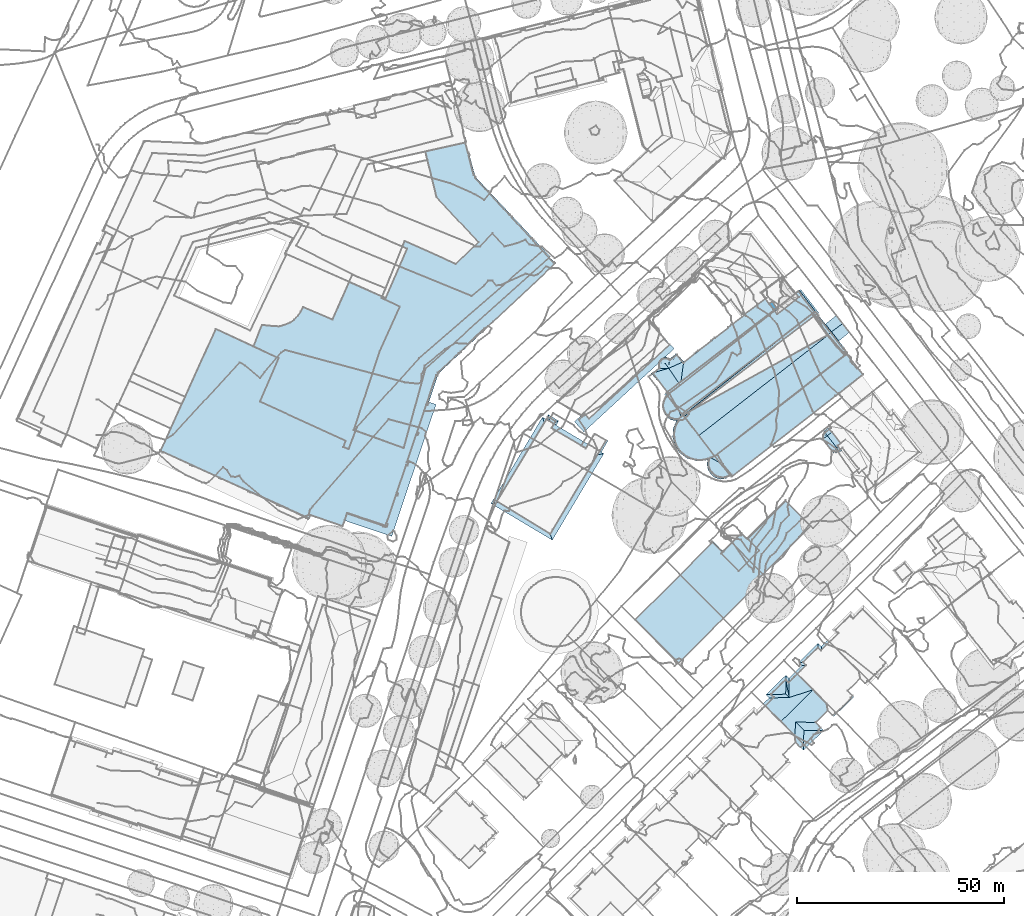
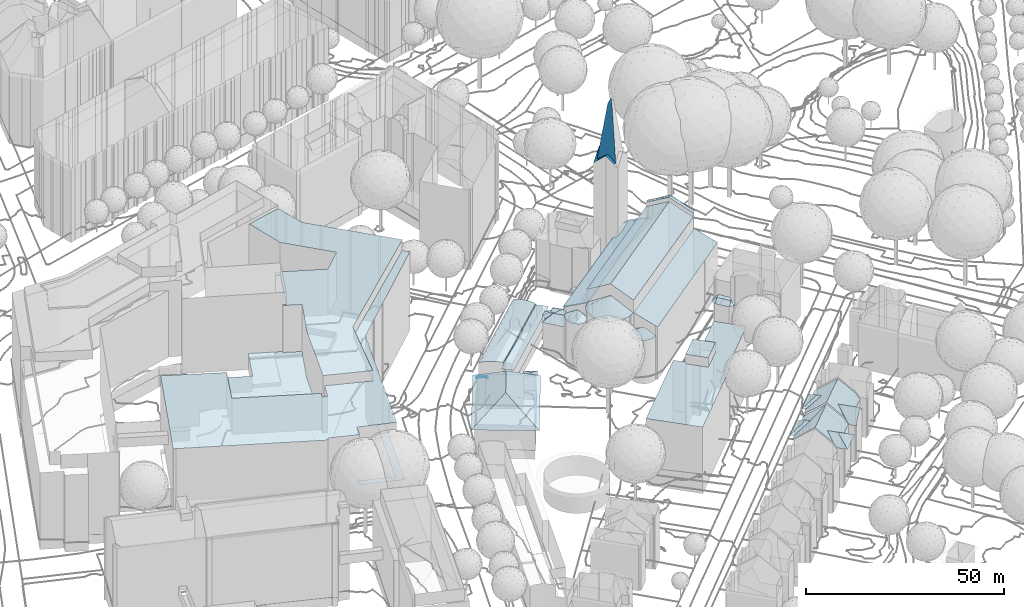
# Not in any storey, part 62 of 494: 24 roofs.
"""IFC2X3 model written with IfcOpenShell, lengths in metres."""

from ifc_helpers import new_model, si_unit, frame, origin_with_axes, place, context, subcontext, project, faceted_brep, element, save


model = new_model("IFC2X3")

# Units and contexts
model_context = context("Model", 3, precision=1e-05, world=origin_with_axes())
body_context = subcontext(model_context, "Body", "Model", "MODEL_VIEW")
ifc_project = project(units=[si_unit("AREAUNIT", "SQUARE_METRE"), si_unit("LENGTHUNIT", "METRE")], contexts=[model_context])

# Roofs
roof_1_placement = place(None, frame((129.1307320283, 172.8855160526, 527.2133), z_axis=(0.0, 0.0, 1.0), x_axis=(1.0, 0.0, 0.0)))
element("IfcRoof", 1, at=roof_1_placement, Name="Roof 0", ShapeType="NOTDEFINED", context=body_context, shape_type="Brep", body=[
    faceted_brep([(36.2619999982, 28.6290000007, 20.498), (29.9069999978, 16.7265999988, 20.498), (42.3549999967, 22.5430000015, 20.498), (27.1359999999, 19.4952000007, 20.498), (29.0059999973, 9.183600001, 20.498), (24.9499999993, 11.7657000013, 20.498), (21.2709999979, 16.4589999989, 20.498), (18.8549999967, 18.8731000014, 20.498), (20.7619999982, 15.9501999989, 20.498), (0.0, 0.0, 20.498), (10.4670000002, -10.4569999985, 20.498), (29.5469999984, 8.6416000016, 20.498)], [[[0, 1, 2]], [[1, 0, 3]], [[4, 1, 5]], [[4, 2, 1]], [[6, 7, 8]], [[9, 8, 7]], [[10, 4, 5]], [[10, 11, 4]], [[5, 8, 9]], [[9, 10, 5]]]),
])
roof_2_placement = place(None, frame((129.1307320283, 172.8855160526, 527.2133), z_axis=(0.0, 0.0, 1.0), x_axis=(1.0, 0.0, 0.0)))
element("IfcRoof", 2, at=roof_2_placement, Name="Roof 1", ShapeType="NOTDEFINED", context=body_context, shape_type="Brep", body=[
    faceted_brep([(29.9069999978, 16.7265999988, 23.3617), (20.7619999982, 15.9501999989, 23.3617), (24.9499999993, 11.7657000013, 23.3617), (25.7179999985, 20.9111999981, 23.3617)], [[[0, 1, 2]], [[0, 3, 1]]]),
])
roof_3_placement = place(None, frame((168.236732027, 159.8387160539, 531.4768), z_axis=(0.0, 0.0, 1.0), x_axis=(1.0, 0.0, 0.0)))
element("IfcRoof", 3, at=roof_3_placement, Name="Roof 0", ShapeType="NOTDEFINED", context=body_context, shape_type="Brep", body=[
    faceted_brep([(1.9120000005, 2.0028999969, 12.1738), (-0.4900000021, 0.4960999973, 11.7109), (5.7740000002, 2.0361000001, 14.2846), (1.0669999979, 2.0331999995, 11.7109), (0.3189999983, 2.7928999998, 11.7109), (4.949000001, 2.8710999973, 14.2846), (1.4600000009, 2.8125, 12.3448), (5.748999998, 6.6561999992, 11.7109), (4.9890000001, 6.3553999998, 12.3108), (5.0009999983, 7.4149999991, 11.7109), (7.2939999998, -3.6524000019, 14.5876), (13.5899999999, -5.5235000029, 11.7109), (13.3440000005, -5.2735000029, 11.7109), (12.1510000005, -4.0655000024, 11.7109), (11.2010000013, -7.6114000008, 14.5876), (11.3359999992, -7.7471000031, 14.5876), (8.574000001, -10.009800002, 11.3339), (8.805999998, -10.2451000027, 11.3339), (7.3669999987, -8.7871000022, 11.3339), (14.8770000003, 0.5409999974, 12.7678), (15.1840000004, -1.0703000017, 11.7109), (11.5669999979, 3.8954999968, 16.4254), (3.7619999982, -3.8115999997, 16.4254), (7.0720000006, -7.1641000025, 12.7678), (7.3150000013, 8.2020999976, 11.7109)], [[[0, 1, 2]], [[1, 0, 3]], [[0, 4, 3]], [[0, 5, 6]], [[0, 6, 4]], [[0, 2, 5]], [[2, 7, 5]], [[5, 7, 8]], [[8, 7, 9]], [[8, 9, 4]], [[8, 6, 5]], [[6, 8, 4]], [[10, 11, 12]], [[10, 12, 13]], [[11, 14, 15]], [[14, 11, 10]], [[14, 10, 16]], [[15, 14, 17]], [[16, 17, 14]], [[16, 10, 18]], [[19, 13, 20]], [[10, 19, 21]], [[10, 22, 23]], [[22, 10, 21]], [[10, 13, 19]], [[2, 22, 21]], [[7, 2, 21]], [[7, 21, 24]], [[2, 1, 22]], [[10, 23, 18]]]),
])
roof_4_placement = place(None, frame((95.7557320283, 201.4705160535, 529.7781), z_axis=(0.0, 0.0, 1.0), x_axis=(1.0, 0.0, 0.0)))
element("IfcRoof", 4, at=roof_4_placement, Name="Roof 0", ShapeType="NOTDEFINED", context=body_context, shape_type="Brep", body=[
    faceted_brep([(12.5199999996, 20.2040999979, 8.6212), (11.742999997, 19.875, 8.3652), (12.7229999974, 19.2909999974, 8.9521), (12.3619999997, 20.9111000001, 8.3652), (13.561999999, 18.7929999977, 8.9521), (14.2579999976, 18.3759999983, 8.3652), (13.9899999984, 18.995099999, 8.7611), (14.8759999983, 19.4131000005, 8.3652)], [[[0, 1, 2]], [[1, 0, 3]], [[4, 5, 6]], [[6, 5, 7]], [[6, 2, 4]], [[0, 6, 7]], [[0, 2, 6]], [[3, 0, 7]]]),
])
roof_5_placement = place(None, frame((95.7557320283, 201.4705160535, 529.7781), z_axis=(0.0, 0.0, 1.0), x_axis=(1.0, 0.0, 0.0)))
element("IfcRoof", 5, at=roof_5_placement, Name="Roof 1", ShapeType="NOTDEFINED", context=body_context, shape_type="Brep", body=[
    faceted_brep([(24.7869999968, 12.1006000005, 8.9061), (25.1479999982, 11.8847999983, 8.7191), (24.3259999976, 13.9882999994, 9.5001), (23.987999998, 12.5761999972, 9.3211), (23.6169999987, 12.7978999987, 9.5141), (23.2349999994, 13.0263999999, 9.3211), (22.0429999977, 13.7372999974, 8.7191), (26.7829999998, 14.6279000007, 8.7191), (23.7709999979, 16.1142999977, 8.8341), (23.675999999, 16.4804999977, 8.7191), (20.8969999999, 13.0937999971, 10.548), (14.561999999, 9.5263999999, 16.1164), (22.0429999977, 13.7372999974, 9.5431), (24.7869999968, 12.1006000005, 9.5361), (24.5839999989, 11.7588, 9.893), (25.1479999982, 11.8847999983, 9.5431), (25.7719999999, 11.5136999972, 9.5431), (24.2789999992, 11.2480999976, 10.418), (0.3530000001, -0.2158000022, 10.61), (-1.4530000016, -0.5146000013, 9.5431), (12.8409999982, -7.871100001, 10.446), (9.6719999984, 1.3242000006, 16.1164), (13.3459999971, -9.3359000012, 9.543), (23.5359999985, 16.2520000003, 8.7191), (11.443, 18.9247999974, 10.4), (10.9749999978, 20.3339999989, 9.5431), (12.7229999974, 19.2909999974, 9.5431), (13.561999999, 18.7929999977, 9.5431), (14.1549999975, 18.4375, 9.5431)], [[[0, 1, 2]], [[3, 2, 4]], [[2, 3, 0]], [[4, 2, 5]], [[6, 5, 2]], [[7, 8, 2]], [[8, 7, 9]], [[7, 2, 1]], [[10, 11, 4]], [[4, 12, 10]], [[4, 11, 13]], [[14, 15, 13]], [[14, 13, 11]], [[16, 15, 17]], [[14, 11, 17]], [[14, 17, 15]], [[18, 19, 20]], [[20, 21, 18]], [[22, 20, 19]], [[8, 9, 23]], [[6, 2, 8]], [[6, 8, 23]], [[20, 22, 17]], [[21, 20, 11]], [[17, 11, 20]], [[16, 17, 22]], [[24, 18, 11]], [[19, 24, 25]], [[18, 21, 11]], [[19, 18, 24]], [[26, 25, 24]], [[27, 24, 28]], [[24, 27, 26]], [[24, 11, 28]], [[28, 10, 12]], [[10, 28, 11]]]),
])
roof_6_placement = place(None, frame((-19.7342679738, 221.4617160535, 529.9572), z_axis=(0.0, 0.0, 1.0), x_axis=(1.0, 0.0, 0.0)))
element("IfcRoof", 6, at=roof_6_placement, Name="Roof 6", ShapeType="NOTDEFINED", context=body_context, shape_type="Brep", body=[
    faceted_brep([(78.4660000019, -6.9248000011, 12.5557), (79.7529999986, -7.4209000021, 12.5557), (79.0159999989, -5.4209000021, 12.5557), (81.4059999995, -2.9794999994, 12.5557), (80.9890000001, -2.8291000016, 12.5557), (62.8740000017, 14.4862999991, 12.5557), (87.1979999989, 16.0947999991, 12.5557), (58.3509999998, 4.0196000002, 12.5557), (56.7750000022, 17.3321000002, 12.5558), (60.2910000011, 22.3642999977, 12.5558), (58.8210000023, 22.557599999, 12.5558), (62.8170000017, 22.1816999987, 12.5558), (64.0949999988, 22.4912, 12.5558), (75.8379999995, 23.7997999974, 12.5557), (87.6849999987, 28.9853999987, 12.5557), (92.0879999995, 26.932599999, 12.5557), (65.6350000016, 23.0956999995, 12.5558), (87.8379999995, 29.3662, 12.5557), (79.8440000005, 32.9169999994, 12.5558), (66.6460000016, 23.8222999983, 12.5558), (68.2120000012, 25.7734999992, 12.5558), (67.5040000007, 24.8407999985, 12.5558), (68.7309999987, 26.8300999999, 12.5558)], [[[0, 1, 2]], [[2, 3, 4]], [[3, 2, 1]], [[5, 4, 6]], [[2, 4, 7]], [[5, 7, 4]], [[8, 5, 9]], [[9, 10, 8]], [[11, 9, 5]], [[11, 5, 12]], [[13, 6, 14]], [[14, 6, 15]], [[6, 13, 16]], [[14, 17, 18]], [[14, 18, 13]], [[12, 5, 16]], [[19, 16, 13]], [[20, 21, 13]], [[22, 20, 13]], [[19, 13, 21]], [[16, 5, 6]]]),
])
roof_7_placement = place(None, frame((-19.7342679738, 221.4617160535, 529.9572), z_axis=(0.0, 0.0, 1.0), x_axis=(1.0, 0.0, 0.0)))
element("IfcRoof", 7, at=roof_7_placement, Name="Roof 7", ShapeType="NOTDEFINED", context=body_context, shape_type="Brep", body=[
    faceted_brep([(98.7380000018, 4.0918000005, 7.2202), (98.6559999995, 3.8486999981, 7.2202), (98.9919999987, 3.7362999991, 7.2202), (98.4649999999, 3.2802999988, 7.2202), (96.2259999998, -3.3896000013, 7.2202), (98.8040000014, 3.1659999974, 7.2202), (96.0350000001, -3.9590000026, 7.2202), (93.7789999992, -10.6816000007, 7.2202), (94.1390000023, -10.7861000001, 7.2202), (100.7919999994, 3.4023999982, 7.2202), (96.5800000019, -3.5088, 7.2202), (96.3920000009, -4.0780999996, 7.2202), (93.9479999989, -11.3553999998, 7.2202), (91.6840000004, -18.0947000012, 7.2202), (93.5879999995, -11.251000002, 7.2202), (91.3289999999, -17.9756000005, 7.2202), (79.3350000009, -22.817400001, 7.2202), (78.8260000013, -24.4990000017, 7.2202), (89.0289999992, -26.0039000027, 7.2202), (78.7850000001, -24.6172000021, 7.2202), (90.1000000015, -28.4189000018, 7.2202), (91.493999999, -18.6611000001, 7.2202), (89.1909999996, -25.5224000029, 7.2202), (91.1390000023, -18.5419999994, 7.2202), (88.8300000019, -25.4189000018, 7.2202)], [[[0, 1, 2]], [[3, 4, 5]], [[6, 7, 8]], [[9, 2, 5]], [[2, 9, 0]], [[9, 5, 10]], [[5, 4, 10]], [[11, 8, 9]], [[10, 11, 9]], [[8, 11, 6]], [[9, 8, 12]], [[13, 14, 15]], [[16, 17, 18]], [[17, 19, 18]], [[20, 12, 13]], [[12, 14, 13]], [[20, 13, 21]], [[22, 20, 21]], [[20, 22, 18]], [[18, 19, 20]], [[22, 21, 23]], [[22, 23, 24]], [[12, 20, 9]]]),
])
roof_8_placement = place(None, frame((-19.7342679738, 221.4617160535, 529.9572), z_axis=(0.0, 0.0, 1.0), x_axis=(1.0, 0.0, 0.0)))
element("IfcRoof", 8, at=roof_8_placement, Name="Roof 8", ShapeType="NOTDEFINED", context=body_context, shape_type="Brep", body=[
    faceted_brep([(126.6339999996, 40.4912, 23.8336), (126.5549999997, 40.4219000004, 23.8336), (128.0749999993, 38.7763999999, 23.8336), (129.6119999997, 37.4345999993, 23.8336), (114.6420000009, 23.3418000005, 23.8336), (111.9680000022, 20.8233000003, 23.8336), (98.2879999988, 12.0185999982, 23.8336), (106.6490000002, 15.8145000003, 23.8336), (101.3260000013, 10.8017999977, 23.8336), (98.9919999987, 3.736399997, 23.8336), (93.0320000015, -7.1660000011, 23.8336), (96.6070000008, -3.4277000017, 23.8336), (89.1290000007, -26.0371000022, 23.8336), (81.4059999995, -2.9794999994, 23.8336), (79.7529999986, -7.4209000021, 23.8336), (49.1140000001, -14.5849000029, 23.8336), (58.3509999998, 4.0196000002, 23.8337), (48.568, -14.3349000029, 23.8336), (78.4660000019, -6.9248000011, 23.8336), (79.0159999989, -5.4209000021, 23.8336), (70.6229999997, -23.3515000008, 23.8336), (47.6970000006, 21.5683999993, 23.8337), (36.8099999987, -2.4404000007, 23.8337), (62.8740000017, 14.486399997, 23.8337), (34.3410000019, -7.8905999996, 23.8337), (79.3350000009, -22.817400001, 23.8336), (78.8260000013, -24.4990000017, 23.8336), (71.9290000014, -23.808600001, 23.8336), (78.3480000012, -26.0752000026, 23.8336), (70.2939999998, -24.1631000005, 23.8336)], [[[0, 1, 2]], [[2, 3, 0]], [[3, 2, 4]], [[5, 4, 6]], [[4, 2, 6]], [[5, 6, 7]], [[6, 8, 7]], [[8, 6, 9]], [[6, 10, 9]], [[11, 10, 12]], [[10, 11, 9]], [[13, 14, 10]], [[15, 16, 17]], [[16, 18, 19]], [[20, 18, 16]], [[20, 16, 15]], [[16, 21, 22]], [[16, 23, 21]], [[22, 24, 17]], [[22, 17, 16]], [[14, 25, 12]], [[26, 25, 27]], [[14, 18, 25]], [[10, 14, 12]], [[25, 18, 20]], [[27, 28, 26]], [[20, 27, 25]], [[15, 29, 20]]]),
])
roof_9_placement = place(None, frame((-19.7342679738, 221.4617160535, 529.9572), z_axis=(0.0, 0.0, 1.0), x_axis=(1.0, 0.0, 0.0)))
element("IfcRoof", 9, at=roof_9_placement, Name="Roof 9", ShapeType="NOTDEFINED", context=body_context, shape_type="Brep", body=[
    faceted_brep([(80.9890000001, -2.8291000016, 27.0083), (93.0320000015, -7.1660000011, 27.0083), (98.2879999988, 12.0185999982, 27.0083), (87.1979999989, 16.0946999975, 27.0083), (92.0879999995, 26.932599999, 27.0084), (93.8509999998, 40.9062999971, 27.0084), (105.5940000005, 37.2460999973, 27.0084), (87.6849999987, 28.9853999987, 27.0084), (88.6739999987, 28.995099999, 27.0084), (87.8379999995, 29.3662, 27.0084), (92.6770000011, 41.4179999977, 27.0084), (93.2239999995, 42.7812999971, 27.0084), (111.1070000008, 42.5205000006, 27.0084), (128.3619999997, 39.0331999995, 27.0083), (100.9539999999, 53.3720999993, 27.0084), (110.2879999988, 58.2821999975, 27.0084), (108.6979999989, 64.1435999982, 27.0084), (98.2540000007, 64.3896999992, 27.0084), (107.8990000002, 66.5478999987, 27.0084), (107.9919999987, 66.7773999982, 27.0084), (107.8509999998, 66.7372999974, 27.0084)], [[[0, 1, 2]], [[3, 2, 4]], [[2, 3, 0]], [[5, 4, 6]], [[7, 8, 9]], [[8, 7, 4]], [[10, 5, 11]], [[5, 6, 11]], [[8, 4, 5]], [[4, 2, 6]], [[12, 6, 13]], [[14, 12, 15]], [[12, 13, 15]], [[6, 2, 13]], [[14, 15, 16]], [[16, 17, 14]], [[17, 16, 18]], [[18, 19, 20]], [[19, 18, 16]]]),
])
roof_10_placement = place(None, frame((140.4987320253, 222.5740160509, 530.262), z_axis=(0.0, 0.0, 1.0), x_axis=(1.0, 0.0, 0.0)))
element("IfcRoof", 10, at=roof_10_placement, Name="Roof 0", ShapeType="NOTDEFINED", context=body_context, shape_type="Brep", body=[
    faceted_brep([(0.0, 0.0, 23.2138), (32.3200000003, 22.6270000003, 24.1777), (31.2479999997, 24.0996000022, 23.2138), (34.9480000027, 19.0127000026, 26.5445), (34.9940000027, 18.9590000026, 26.5815), (0.2019999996, -0.2938999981, 23.4248), (3.9820000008, -5.1805999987, 26.6015), (7.7970000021, -10.2206999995, 23.2798), (35.0190000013, 18.9297000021, 26.6015), (35.0430000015, 18.9013999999, 26.5815), (39.4150000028, 14.1826000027, 23.2798), (39.376000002, 14.2285000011, 23.3108), (39.1830000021, 14.0625, 23.3038)], [[[0, 1, 2]], [[1, 0, 3]], [[4, 3, 0]], [[0, 5, 4]], [[6, 7, 8]], [[9, 8, 7]], [[8, 4, 5]], [[5, 6, 8]], [[10, 11, 12]], [[12, 7, 10]], [[9, 7, 12]]]),
])
roof_11_placement = place(None, frame((140.4987320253, 222.5740160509, 530.262), z_axis=(0.0, 0.0, 1.0), x_axis=(1.0, 0.0, 0.0)))
element("IfcRoof", 11, at=roof_11_placement, Name="Roof 1", ShapeType="NOTDEFINED", context=body_context, shape_type="Brep", body=[
    faceted_brep([(0.3100000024, -0.6053999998, 19.5061), (0.393000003, -0.5409999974, 19.5061), (0.2019999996, -0.2938999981, 19.3632), (0.0020000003, -0.0028999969, 19.2022), (0.1160000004, -0.1415999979, 19.2842), (0.1760000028, -0.2118999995, 19.3262), (0.2400000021, -0.2733999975, 19.3662), (-3.5350000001, 4.4024000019, 16.6254), (16.0520000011, 12.1543000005, 19.2632), (22.9200000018, 24.004900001, 16.8834), (-3.9800000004, 4.9814999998, 16.2925), (-3.5700000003, 5.2969000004, 16.2925), (22.6060000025, 24.4268000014, 16.6434), (22.2920000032, 24.8496000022, 16.4035), (22.1420000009, 25.0420000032, 16.2925), (31.819000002, 24.5469000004, 19.1602), (31.9360000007, 24.3955000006, 19.2472), (32.1730000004, 24.5800999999, 19.2462), (32.5240000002, 24.1319000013, 19.5061), (32.5430000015, 24.1455000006, 19.5061), (28.2520000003, 29.7325000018, 16.2925), (25.5170000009, 26.067400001, 16.8584), (27.4000000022, 29.0791000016, 16.2925), (28.143000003, 28.1905000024, 16.8204), (28.0470000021, 29.5752000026, 16.2925), (0.2330000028, -0.2714999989, 19.3142), (0.2330000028, -0.2714999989, 19.2142), (0.1760000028, -0.2118999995, 19.1762), (0.2400000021, -0.2733999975, 19.1662)], [[[0, 1, 2]], [[0, 2, 3]], [[4, 5, 6]], [[4, 6, 3]], [[7, 6, 8]], [[9, 7, 8]], [[6, 7, 3]], [[10, 7, 11]], [[7, 12, 11]], [[7, 9, 12]], [[3, 7, 0]], [[11, 13, 14]], [[13, 11, 12]], [[9, 8, 15]], [[16, 17, 15]], [[17, 18, 19]], [[19, 20, 17]], [[21, 9, 15]], [[22, 23, 24]], [[15, 17, 23]], [[23, 21, 15]], [[24, 23, 20]], [[23, 17, 20]], [[5, 25, 6]], [[26, 27, 28]]]),
])
roof_12_placement = place(None, frame((140.4987320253, 222.5740160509, 530.262), z_axis=(0.0, 0.0, 1.0), x_axis=(1.0, 0.0, 0.0)))
element("IfcRoof", 12, at=roof_12_placement, Name="Roof 2", ShapeType="NOTDEFINED", context=body_context, shape_type="Brep", body=[
    faceted_brep([(9.7300000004, -12.5634999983, 15.6185), (7.7699999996, -15.360299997, 13.9227), (9.2760000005, -15.3456999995, 14.1516), (9.631000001, -12.4354999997, 15.6685), (9.2050000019, -15.7782999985, 13.9227), (6.7719999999, -14.5028999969, 13.9227), (9.5670000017, -12.3534999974, 15.6785), (6.1229999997, -13.3202999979, 13.9227), (9.5030000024, -12.2704999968, 15.6705), (5.9050000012, -12.0800999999, 13.9227), (9.4250000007, -12.1708999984, 15.6405), (11.6520000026, -14.8329999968, 13.9027), (11.6030000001, -14.7704999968, 13.9496), (11.4979999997, -14.8368999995, 13.9516), (10.5530000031, -15.5399999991, 13.9227), (9.9409999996, -12.8339999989, 15.4515), (6.0880000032, -10.9882999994, 13.9227), (9.3120000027, -12.0253999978, 15.5745), (6.3770000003, -10.8213, 14.1036), (9.1740000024, -11.8486000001, 15.5205), (6.8049999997, -10.5751999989, 14.3706), (7.7970000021, -10.2206999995, 14.6156), (7.8670000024, -10.1659999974, 14.6246)], [[[0, 1, 2]], [[1, 0, 3]], [[1, 4, 2]], [[3, 5, 1]], [[5, 3, 6]], [[5, 6, 7]], [[7, 6, 8]], [[7, 8, 9]], [[9, 8, 10]], [[11, 12, 13]], [[13, 14, 11]], [[15, 14, 13]], [[4, 14, 2]], [[2, 15, 0]], [[15, 2, 14]], [[9, 10, 16]], [[16, 10, 17]], [[18, 16, 19]], [[18, 19, 20]], [[19, 16, 17]], [[21, 20, 19]], [[21, 19, 22]]]),
])
roof_13_placement = place(None, frame((140.4987320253, 222.5740160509, 530.262), z_axis=(0.0, 0.0, 1.0), x_axis=(1.0, 0.0, 0.0)))
element("IfcRoof", 13, at=roof_13_placement, Name="Roof 3", ShapeType="NOTDEFINED", context=body_context, shape_type="Brep", body=[
    faceted_brep([(23.6410000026, 2.0088, 19.3861), (11.4979999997, -14.8368999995, 16.9084), (42.7580000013, 10.558600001, 17.2763), (39.4150000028, 14.1826000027, 19.3581), (11.8600000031, -15.3037, 16.6584), (43.5930000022, 9.4844000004, 16.6994), (15.7540000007, -4.0790999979, 19.4011), (7.8670000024, -10.1659999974, 19.4151), (39.6560000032, 14.4688000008, 19.3911), (39.376000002, 14.2285000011, 19.3831), (43.6530000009, 9.4073000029, 16.6584), (39.6600000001, 14.5449000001, 19.4151), (39.6220000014, 14.5137000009, 19.4141), (39.643000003, 14.4854000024, 19.4001), (39.6210000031, 14.514700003, 19.2152), (39.625, 14.5127000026, 19.2901), (39.6600000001, 14.5449000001, 19.2152)], [[[0, 1, 2]], [[0, 2, 3]], [[1, 4, 5]], [[6, 7, 1]], [[0, 6, 1]], [[3, 8, 9]], [[3, 2, 8]], [[2, 1, 5]], [[4, 10, 5]], [[8, 2, 11]], [[11, 12, 13]], [[11, 13, 8]], [[14, 15, 16]]]),
])
roof_14_placement = place(None, frame((140.4987320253, 222.5740160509, 530.262), z_axis=(0.0, 0.0, 1.0), x_axis=(1.0, 0.0, 0.0)))
element("IfcRoof", 14, at=roof_14_placement, Name="Roof 4", ShapeType="NOTDEFINED", context=body_context, shape_type="Brep", body=[
    faceted_brep([(35.7479999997, 19.6465000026, 27.7353), (34.9480000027, 19.0127000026, 27.7213), (36.8370000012, 18.2471000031, 26.8474), (35.9580000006, 19.813500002, 27.7393), (39.1830000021, 14.0625, 24.4677), (39.6560000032, 14.4688000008, 24.4996), (39.9700000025, 14.7373000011, 24.5216), (32.064000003, 24.7393000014, 24.5217), (31.819000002, 24.5469000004, 24.5097), (31.2490000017, 24.0987000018, 24.4827)], [[[0, 1, 2]], [[0, 2, 3]], [[2, 1, 4]], [[4, 5, 2]], [[6, 3, 2]], [[6, 2, 5]], [[1, 7, 8]], [[1, 8, 9]], [[0, 3, 7]], [[7, 1, 0]]]),
])
roof_15_placement = place(None, frame((140.4987320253, 222.5740160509, 530.262), z_axis=(0.0, 0.0, 1.0), x_axis=(1.0, 0.0, 0.0)))
element("IfcRoof", 15, at=roof_15_placement, Name="Roof 6", ShapeType="NOTDEFINED", context=body_context, shape_type="Brep", body=[
    faceted_brep([(37.0769999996, 23.7266000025, 13.9337), (36.007000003, 19.8526000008, 15.4845), (38.6579999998, 21.8047000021, 15.4845), (40.4290000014, 19.8311000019, 14.0807), (36.7050000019, 18.4170000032, 14.7106), (35.7589999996, 19.6338, 15.4845), (37.4810000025, 17.4180000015, 14.0807), (35.1160000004, 20.4600000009, 14.8166), (34.2829999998, 21.5313000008, 13.9337)], [[[0, 1, 2]], [[1, 3, 2]], [[4, 1, 5]], [[6, 3, 4]], [[1, 4, 3]], [[1, 7, 5]], [[7, 1, 0]], [[0, 8, 7]]]),
])
roof_16_placement = place(None, frame((140.4987320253, 222.5740160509, 530.262), z_axis=(0.0, 0.0, 1.0), x_axis=(1.0, 0.0, 0.0)))
element("IfcRoof", 16, at=roof_16_placement, Name="Roof 7", ShapeType="NOTDEFINED", context=body_context, shape_type="Brep", body=[
    faceted_brep([(21.6850000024, 31.3408000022, 40.8551), (19.825000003, 29.1026000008, 38.8453), (22.268000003, 30.5244000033, 40.8551), (21.7540000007, 27.0976999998, 40.8551), (20.0500000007, 27.7920000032, 39.5352), (20.9180000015, 26.6152999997, 40.8551), (18.9100000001, 29.2725000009, 37.9304), (21.9860000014, 25.2402999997, 39.3183), (22.2920000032, 24.8496000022, 38.8803), (23.0050000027, 25.1494000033, 38.8453), (23.5830000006, 28.5694000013, 56.7956), (22.7719999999, 28.8155000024, 55.1068), (23.432, 27.8008000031, 55.1118), (22.7719999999, 28.8155000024, 54.9068), (19.825000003, 29.1026000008, 38.6453), (22.268000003, 30.5244000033, 40.6551), (21.7540000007, 27.0976999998, 40.6551), (23.432, 27.8008000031, 54.9128), (23.0050000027, 25.1494000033, 38.6453)], [[[0, 1, 2]], [[3, 1, 4]], [[3, 4, 5]], [[6, 4, 1]], [[7, 8, 3]], [[3, 5, 7]], [[9, 3, 8]], [[0, 6, 1]], [[10, 11, 12]], [[1, 11, 2]], [[13, 14, 15]], [[11, 1, 3]], [[14, 13, 16]], [[3, 9, 12]], [[17, 18, 16]], [[11, 3, 12]], [[16, 13, 17]]]),
])
roof_17_placement = place(None, frame((140.4987320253, 222.5740160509, 530.262), z_axis=(0.0, 0.0, 1.0), x_axis=(1.0, 0.0, 0.0)))
element("IfcRoof", 17, at=roof_17_placement, Name="Roof 9", ShapeType="NOTDEFINED", context=body_context, shape_type="Brep", body=[
    faceted_brep([(-1.8169999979, -7.6385999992, 19.3382), (-0.6730000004, -9.3895999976, 19.3382), (-1.436999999, -7.4774999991, 19.5881), (3.9820000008, -5.1805999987, 23.1468), (-1.9189999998, -5.619099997, 19.6071), (-2.3669999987, -5.6523000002, 19.3382), (-1.7859999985, -3.6787, 19.6261), (-2.2569999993, -3.5555999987, 19.3382), (-1.4569999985, -1.6444999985, 19.3382), (5.6280000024, -11.1972000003, 19.3381), (6.8049999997, -10.5751999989, 19.3381), (7.7970000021, -10.2206999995, 19.3771), (6.0860000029, -10.9891999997, 19.3381), (1.2790000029, -10.4287, 19.5341), (1.132000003, -10.7118999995, 19.3381), (3.4020000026, -11.360299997, 19.3381), (-1.0429999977, -1.3143999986, 19.3722), (0.2019999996, -0.2938999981, 19.4741), (28.5320000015, 30.0371000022, 16.2605), (-4.3459999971, 4.7910000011, 16.2605), (0.2019999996, -0.2938999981, 19.3632), (32.9079999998, 24.3379000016, 19.5381), (0.4370000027, -0.5975999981, 19.5381), (-0.193, -0.6171999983, 19.3712)], [[[0, 1, 2]], [[1, 3, 2]], [[2, 3, 4]], [[5, 0, 2]], [[5, 2, 4]], [[4, 3, 6]], [[7, 5, 4]], [[7, 4, 6]], [[6, 3, 8]], [[8, 7, 6]], [[3, 9, 10]], [[11, 3, 10]], [[9, 12, 10]], [[13, 14, 15]], [[3, 13, 15]], [[3, 15, 9]], [[13, 3, 1]], [[13, 1, 14]], [[16, 3, 17]], [[3, 16, 8]], [[18, 19, 20]], [[18, 20, 21]], [[20, 22, 21]], [[23, 20, 19]]]),
])
roof_18_placement = place(None, frame((140.4987320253, 222.5740160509, 530.262), z_axis=(0.0, 0.0, 1.0), x_axis=(1.0, 0.0, 0.0)))
element("IfcRoof", 18, at=roof_18_placement, Name="Roof 10", ShapeType="NOTDEFINED", context=body_context, shape_type="Brep", body=[
    faceted_brep([(-5.7769999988, 10.9375, 9.5301), (-3.310999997, 11.0117000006, 10.293), (-4.0969999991, 12.0976999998, 10.1091), (-7.5379999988, 9.7881000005, 9.6631), (-6.754999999, 10.014700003, 9.7801), (-3.1429999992, 13.1064999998, 9.6971), (-2.9589999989, 12.9776000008, 9.7071), (-2.8959999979, 13.3682000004, 9.5911), (-1.8029999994, 13.879900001, 9.5401), (-1.4499999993, 14.5518000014, 9.3631), (-4.186999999, 13.3526000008, 9.6951), (-4.2209999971, 13.822300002, 9.5401), (-5.7899999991, 12.4453000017, 9.5451), (0.2540000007, 12.25, 9.4321), (0.3200000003, 12.6446000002, 9.3311), (0.0430000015, 12.5196000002, 9.4041), (14.2100000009, 23.379900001, 9.5281)], [[[0, 1, 2]], [[3, 4, 0]], [[1, 0, 4]], [[2, 1, 5]], [[6, 7, 5]], [[6, 5, 1]], [[6, 1, 8]], [[6, 9, 7]], [[9, 6, 8]], [[10, 2, 5]], [[10, 7, 11]], [[7, 10, 5]], [[10, 11, 12]], [[10, 12, 2]], [[0, 2, 12]], [[13, 14, 15]], [[8, 1, 15]], [[8, 14, 9]], [[14, 8, 15]], [[13, 16, 14]]]),
])
roof_19_placement = place(None, frame((140.4987320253, 222.5740160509, 530.262), z_axis=(0.0, 0.0, 1.0), x_axis=(1.0, 0.0, 0.0)))
element("IfcRoof", 19, at=roof_19_placement, Name="Roof 11", ShapeType="NOTDEFINED", context=body_context, shape_type="Brep", body=[
    faceted_brep([(21.9850000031, 25.2393000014, 10.648), (15.439000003, 19.8936000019, 10.694), (22.1420000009, 25.0410000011, 10.729), (1.6970000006, 9.3418000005, 10.615), (13.7039999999, 22.8115999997, 9.5721), (14.2190000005, 23.3867000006, 9.5281), (-0.375, 7.75, 10.583), (0.2540000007, 12.25, 9.4321), (-3.310999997, 11.0117000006, 10.293), (-3.3029999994, 5.5020000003, 9.7321), (-0.8439999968, 7.389700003, 10.743), (-3.5359999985, 5.1006000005, 9.6631), (-3.4619999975, 5.1582000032, 9.6781), (-3.5700000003, 5.2969000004, 9.6791), (-7.5379999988, 9.7881000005, 9.6631), (-6.754999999, 10.014700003, 9.7801), (14.9360000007, 23.9287, 9.5381), (20.9180000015, 26.6152999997, 10.0911), (20.0500000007, 27.7920000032, 9.6111), (0.0430000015, 12.5196000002, 9.4041)], [[[0, 1, 2]], [[3, 1, 4]], [[4, 1, 5]], [[0, 5, 1]], [[6, 3, 7]], [[7, 4, 5]], [[4, 7, 3]], [[8, 9, 10]], [[11, 12, 13]], [[13, 9, 8]], [[14, 11, 13]], [[15, 14, 13]], [[8, 15, 13]], [[16, 5, 0]], [[17, 18, 16]], [[0, 17, 16]], [[19, 8, 7]], [[7, 8, 6]], [[6, 8, 10]]]),
])
roof_20_placement = place(None, frame((140.4987320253, 222.5740160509, 530.262), z_axis=(0.0, 0.0, 1.0), x_axis=(1.0, 0.0, 0.0)))
element("IfcRoof", 20, at=roof_20_placement, Name="Roof 12", ShapeType="NOTDEFINED", context=body_context, shape_type="Brep", body=[
    faceted_brep([(-3.7850000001, -0.7333999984, 14.2387), (-2.7869999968, -1.4375, 14.2387), (-3.5419999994, -0.4472000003, 14.4696), (-1.5799999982, 1.8564999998, 16.3385), (-1.5309999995, 1.7920000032, 16.3235), (-4.4329999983, 0.1709000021, 14.2387), (-1.6209999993, 1.9101999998, 16.3375), (-1.6579999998, 1.9580000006, 16.3275), (-4.807, 1.0596000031, 14.2387), (-1.7039999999, 2.0186000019, 16.3005), (-4.8819999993, 2.001000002, 14.2387), (-1.0399999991, -1.3192999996, 14.5406), (-0.8789999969, -1.6014999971, 14.3866), (-0.8589999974, -1.5713, 14.4056), (-0.8439999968, -1.5458999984, 14.4206), (-0.6589999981, -1.0, 14.7536), (-0.2749999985, -0.6854999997, 14.9636), (-1.1039999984, 1.2364000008, 16.0345), (-1.443, 1.6787, 16.2705), (-1.4569999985, -1.6444999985, 14.3226), (0.1220000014, -0.360299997, 14.9526), (-4.6609999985, 3.1553000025, 14.2387), (-1.8029999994, 2.1465000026, 16.2205), (-2.0339999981, 2.447300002, 15.9915), (-4.0039999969, 3.8721000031, 14.3956), (-4.2009999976, 4.0215000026, 14.2337), (-3.5769999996, 4.7295000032, 14.2697), (-3.5350000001, 4.4024000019, 14.4226), (-3.4129999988, 4.5137000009, 14.4406)], [[[0, 1, 2]], [[1, 3, 2]], [[3, 1, 4]], [[5, 0, 2]], [[2, 6, 5]], [[6, 2, 3]], [[5, 7, 8]], [[7, 5, 6]], [[8, 9, 10]], [[9, 8, 7]], [[11, 12, 13]], [[13, 14, 11]], [[15, 16, 17]], [[15, 17, 18]], [[19, 12, 11]], [[11, 18, 19]], [[18, 11, 15]], [[19, 4, 1]], [[4, 19, 18]], [[17, 16, 20]], [[10, 9, 21]], [[21, 9, 22]], [[22, 23, 21]], [[21, 23, 24]], [[25, 21, 24]], [[26, 27, 28]], [[23, 27, 24]], [[24, 27, 25]], [[27, 26, 25]], [[18, 3, 4]]]),
])
roof_21_placement = place(None, frame((110.5127320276, 225.4217160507, 530.0601), z_axis=(0.0, 0.0, 1.0), x_axis=(1.0, 0.0, 0.0)))
element("IfcRoof", 21, at=roof_21_placement, Name="Roof 0", ShapeType="NOTDEFINED", context=body_context, shape_type="Brep", body=[
    faceted_brep([(24.7289999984, 9.9140000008, 9.3321), (6.2129999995, -7.1991999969, 9.3331), (24.6339999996, 9.7890000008, 9.3331), (5.5109999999, -3.2821999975, 9.1491), (3.9379999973, -4.7333999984, 9.1491), (5.5940000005, -3.2050999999, 9.1491), (24.8209999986, 10.0283000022, 9.3301), (25.7109999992, 15.3457000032, 9.1491), (27.9849999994, 12.879900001, 9.3331), (25.0370000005, 10.2129000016, 9.3311), (25.1549999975, 10.2900000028, 9.3321), (25.1979999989, 10.3095000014, 9.3331), (24.2339999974, 16.9472000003, 9.936), (23.574000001, 17.6631000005, 9.976), (3.612999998, -2.0702999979, 9.936), (2.7280000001, -1.561499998, 9.976), (24.8350000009, 16.3047000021, 9.818), (4.4129999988, -2.5282999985, 9.818), (5.0469999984, -2.8915999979, 9.635), (25.3029999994, 15.7890000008, 9.635), (25.6059999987, 15.4599000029, 9.4051), (5.4539999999, -3.125, 9.4051), (21.8460000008, 19.5371000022, 9.635), (21.5419999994, 19.8662, 9.4051), (0.4079999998, -0.2333999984, 9.635), (0.0, 0.0, 9.4051), (22.318, 19.0254000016, 9.818), (1.0419999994, -0.5966999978, 9.818), (22.9140000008, 18.3789000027, 9.936), (1.8420000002, -1.0546999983, 9.936), (24.8350000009, 16.3047000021, 9.618), (24.2339999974, 16.9472000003, 9.736), (25.2019999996, 10.3144000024, 9.1331), (25.1569999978, 10.2910000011, 9.1821), (25.0399999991, 10.2148000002, 9.1311)], [[[0, 1, 2]], [[1, 3, 4]], [[3, 1, 5]], [[6, 1, 0]], [[5, 6, 7]], [[6, 5, 1]], [[8, 9, 10]], [[11, 8, 10]], [[6, 8, 7]], [[6, 9, 8]], [[12, 13, 14]], [[15, 14, 13]], [[16, 12, 17]], [[14, 17, 12]], [[16, 18, 19]], [[18, 16, 17]], [[20, 19, 21]], [[21, 19, 18]], [[22, 23, 24]], [[25, 24, 23]], [[26, 22, 27]], [[24, 27, 22]], [[28, 26, 29]], [[27, 29, 26]], [[13, 28, 15]], [[29, 15, 28]], [[21, 5, 20]], [[20, 5, 7]], [[19, 30, 31]], [[32, 33, 34]]]),
])
roof_22_placement = place(None, frame((174.360732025, 216.5486160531, 540.845), z_axis=(0.0, 0.0, 1.0), x_axis=(1.0, 0.0, 0.0)))
element("IfcRoof", 22, at=roof_22_placement, Name="Roof 3", ShapeType="NOTDEFINED", context=body_context, shape_type="Brep", body=[
    faceted_brep([(4.2750000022, -2.5185000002, 0.3439), (3.7920000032, -1.9043000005, 1.0649), (3.8670000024, -2.8408000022, 0.3439), (3.9020000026, -3.2871000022, 0.0), (4.5050000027, -2.8125, 0.0), (3.7390000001, -2.9228000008, 0.3539), (3.4120000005, -2.1933000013, 1.0649), (0.257000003, 1.8213, 0.0), (0.5320000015, 1.4706999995, 0.3549), (1.393000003, 2.7128999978, 0.0), (1.0810000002, 0.7734999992, 1.0649), (2.2170000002, 1.6660999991, 1.0649), (4.3570000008, -1.058600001, 1.0649), (3.5970000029, -1.6581999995, 1.0649), (0.0, 0.0, 0.0), (0.007000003, -0.0703000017, 0.0), (-0.0799999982, 0.942400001, 0.0), (2.7800000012, -2.9638000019, 0.3059), (2.5250000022, -3.2754000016, 0.0), (3.1480000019, -3.3515000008, 0.0)], [[[0, 1, 2]], [[3, 4, 0]], [[3, 0, 2]], [[5, 3, 2]], [[1, 6, 5]], [[1, 5, 2]], [[7, 8, 9]], [[9, 8, 10]], [[11, 9, 10]], [[12, 11, 13]], [[13, 11, 10]], [[13, 6, 1]], [[6, 13, 10]], [[14, 15, 10]], [[14, 10, 16]], [[7, 16, 8]], [[10, 8, 16]], [[10, 15, 17]], [[10, 17, 6]], [[17, 15, 18]], [[5, 6, 19]], [[19, 3, 5]], [[19, 6, 17]], [[18, 19, 17]]]),
])
roof_23_placement = place(None, frame((160.5527320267, 152.2049160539, 530.9679), z_axis=(0.0, 0.0, 1.0), x_axis=(1.0, 0.0, 0.0)))
element("IfcRoof", 23, at=roof_23_placement, Name="Roof 0", ShapeType="NOTDEFINED", context=body_context, shape_type="Brep", body=[
    faceted_brep([(4.8709999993, 7.3358999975, 11.5838), (4.8770000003, 6.2773000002, 12.2428), (5.0599999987, 6.0936999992, 12.2408), (5.688000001, 1.9618999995, 14.4246), (5.6209999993, 6.5770999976, 11.5838), (5.6350000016, 5.5986000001, 12.1858), (11.4459999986, 3.8222999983, 16.4764), (6.8770000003, 6.8329999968, 12.1818), (7.6840000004, 7.6338, 12.1478), (7.1939999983, 8.1298999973, 11.5838)], [[[0, 1, 2]], [[3, 2, 1]], [[4, 0, 5]], [[2, 3, 5]], [[2, 5, 0]], [[3, 6, 7]], [[7, 8, 9]], [[8, 7, 6]], [[5, 3, 7]], [[4, 7, 9]], [[7, 4, 5]]]),
])
roof_24_placement = place(None, frame((160.5527320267, 152.2049160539, 530.9679), z_axis=(0.0, 0.0, 1.0), x_axis=(1.0, 0.0, 0.0)))
element("IfcRoof", 24, at=roof_24_placement, Name="Roof 1", ShapeType="NOTDEFINED", context=body_context, shape_type="Brep", body=[
    faceted_brep([(11.4459999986, 3.8222999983, 16.4764), (3.7390000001, -3.7881000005, 16.4764), (7.2540000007, -3.9463, 14.4245), (7.0500000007, -7.1406000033, 12.8437), (14.756000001, 0.4696999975, 12.8437), (15.050999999, -1.1533000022, 12.0618), (12.1099999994, -4.058600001, 12.0618), (9.2159999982, -5.9356000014, 14.4245), (7.2650000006, -8.8428000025, 12.0618), (14.006000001, -5.9795000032, 12.0618), (13.3260000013, -5.2901000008, 12.0618), (12.8539999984, -5.9678000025, 12.6297), (9.1739999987, -9.6240000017, 12.6197), (8.493999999, -10.0879000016, 12.0618), (9.1609999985, -10.764700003, 12.0618), (0.0960000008, 2.620099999, 11.5838), (0.8449999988, 1.8622999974, 11.5838), (1.8949999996, 1.8838, 12.1998), (5.688000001, 1.9618999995, 14.4246), (1.4189999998, 2.6630999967, 12.3728), (4.8579999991, 2.7753999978, 14.4246), (4.8770000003, 6.2773000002, 12.2428), (-0.5139999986, 0.5204999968, 11.4888), (0.0, 0.0, 12.0918), (0.8409999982, 0.8358999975, 12.1298), (4.8709999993, 7.3358999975, 11.5838)], [[[0, 1, 2]], [[1, 3, 2]], [[0, 2, 4]], [[2, 5, 4]], [[5, 2, 6]], [[2, 3, 7]], [[8, 7, 3]], [[9, 10, 11]], [[11, 10, 7]], [[2, 7, 10]], [[2, 10, 6]], [[12, 7, 8]], [[13, 14, 12]], [[8, 13, 12]], [[12, 14, 9]], [[12, 11, 7]], [[11, 12, 9]], [[15, 16, 17]], [[15, 17, 18]], [[19, 15, 18]], [[18, 20, 19]], [[18, 21, 20]], [[22, 23, 24]], [[24, 1, 18]], [[1, 24, 23]], [[1, 0, 18]], [[16, 22, 17]], [[24, 18, 17]], [[24, 17, 22]], [[25, 15, 21]], [[20, 21, 19]], [[15, 19, 21]]]),
])

save(model, "model.ifc")
